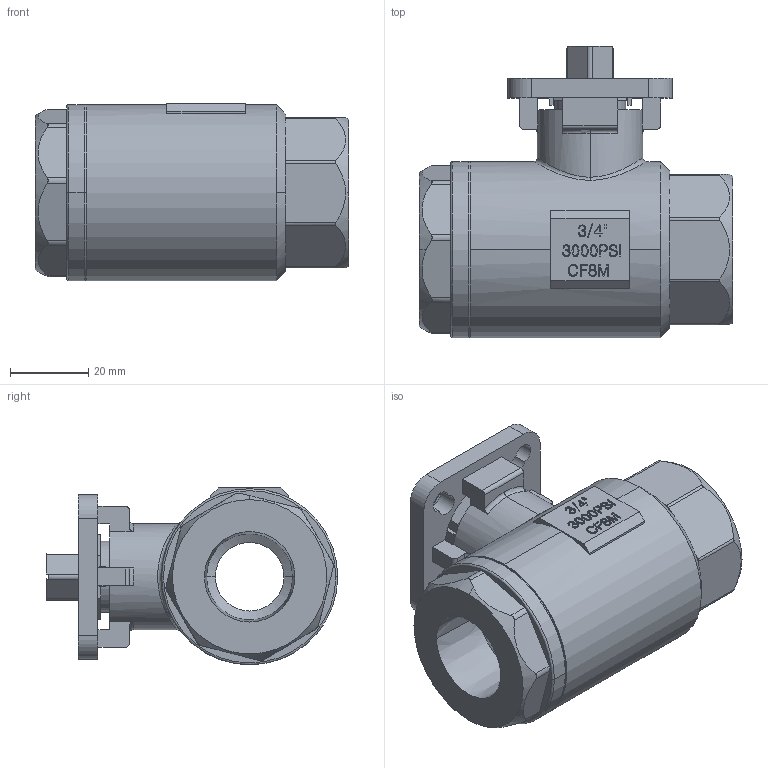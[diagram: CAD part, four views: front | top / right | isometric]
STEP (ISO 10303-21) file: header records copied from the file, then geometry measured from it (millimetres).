
FILE_DESCRIPTION (( 'STEP AP203' ), '1' );
FILE_NAME ('s2f3m-6_1.STEP', '2023-01-11T20:31:38', ( '' ), ( '' ), 'SwSTEP 2.0', 'SolidWorks 2021', '' );
FILE_SCHEMA (( 'CONFIG_CONTROL_DESIGN' ));
Length unit declared in the file: inch
Products named in the file (1): s2f3m-6_1
Bounding box: 80 x 74.45 x 45.4 mm (x, y, z)
Volume: 106836.9 mm3; surface area: 46889.4 mm2
Topology: 15 solids, 15 shells, 732 faces, 1950 edges, 1272 vertices
Faces by surface type: bspline 288, plane 218, cylinder 146, cone 56, torus 19, sphere 5
Entity records: 32223 total; most frequent: CARTESIAN_POINT 15698, ORIENTED_EDGE 3872, DIRECTION 2588, EDGE_CURVE 1936, VERTEX_POINT 1266, LINE 872, VECTOR 872, AXIS2_PLACEMENT_3D 858
